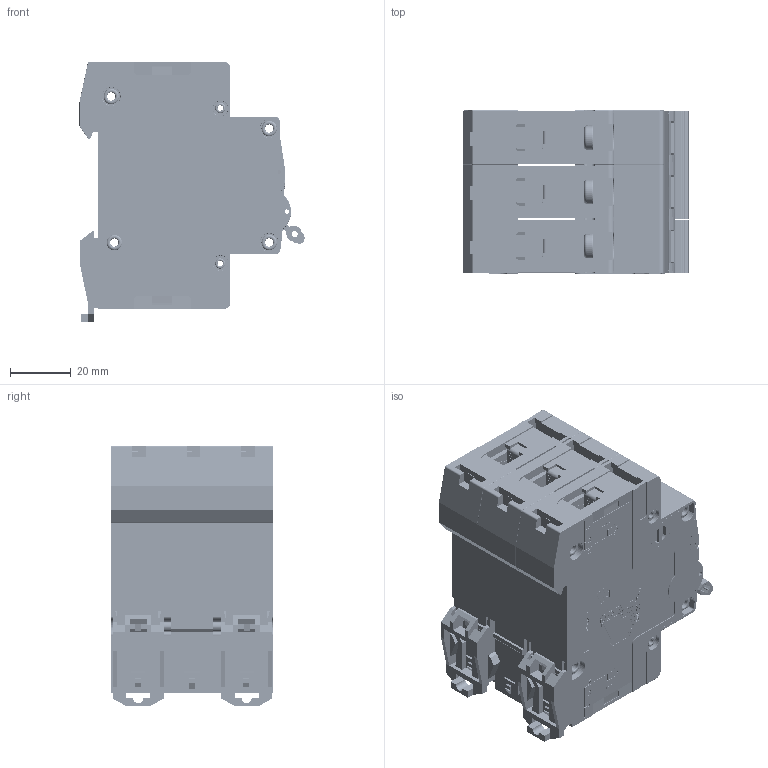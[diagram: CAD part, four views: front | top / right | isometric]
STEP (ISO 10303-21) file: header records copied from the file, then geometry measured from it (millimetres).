
FILE_DESCRIPTION (( 'STEP AP214' ), '1' );
FILE_NAME ('TDZ-3B-63.STEP', '2026-04-30T13:03:12', ( '' ), ( '' ), 'SwSTEP 2.0', 'SolidWorks 2025', '' );
FILE_SCHEMA (( 'AUTOMOTIVE_DESIGN' ));
Length unit declared in the file: millimetre
Products named in the file (1): TDZ-3B-63
Bounding box: 73.85 x 53.4 x 85.3 mm (x, y, z)
Volume: 89398.3 mm3; surface area: 141644.4 mm2
Topology: 44 solids, 44 shells, 11831 faces, 33455 edges, 22238 vertices
Faces by surface type: plane 7428, cylinder 2741, bspline 1233, torus 291, cone 138
Entity records: 598733 total; most frequent: CARTESIAN_POINT 174292, ORIENTED_EDGE 66838, DIRECTION 55884, EDGE_CURVE 33419, VECTOR 23406, LINE 23406, VERTEX_POINT 22238, AXIS2_PLACEMENT_3D 16239
